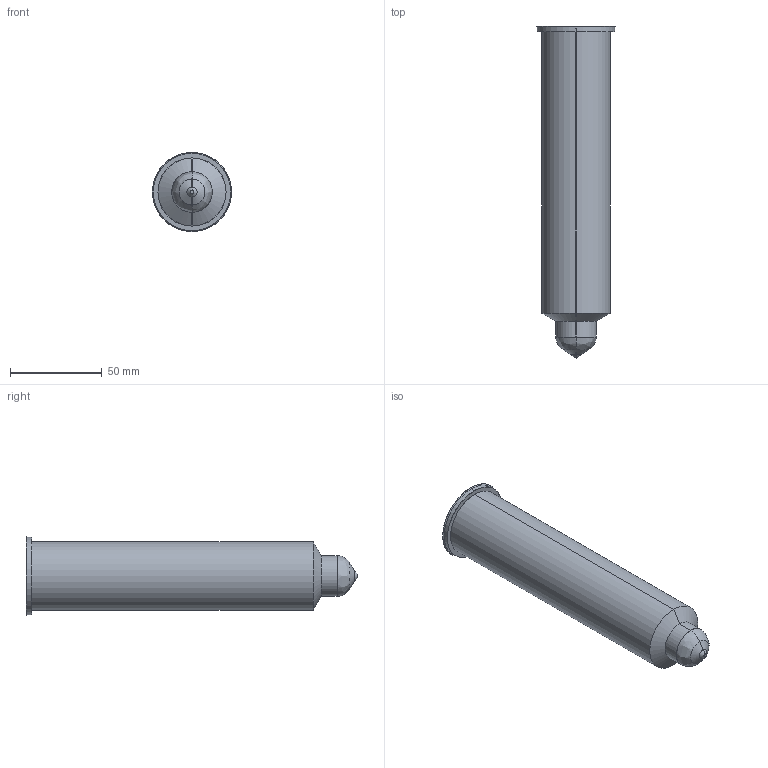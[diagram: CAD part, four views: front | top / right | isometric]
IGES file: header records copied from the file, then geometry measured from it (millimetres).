
Start section: SolidWorks IGES file using analytic representation for surfaces
Global section: file name: C:\Users\luca.EMPAD\Desktop\TEM\Sede UGDL3615-M-A C-177 L-195 Ød-2.0.IGS; native system: SolidWorks 2012; preprocessor: SolidWorks 2012; author: luca; date: 120330.161932; units: millimetre
Bounding box: 43 x 180.5 x 43 mm (x, y, z)
Surface area: 22081.5 mm2 (no closed solid volume)
Topology: 0 solids, 0 shells, 21 faces, 296 edges, 296 vertices
Faces by surface type: revolution 16, bspline 5
